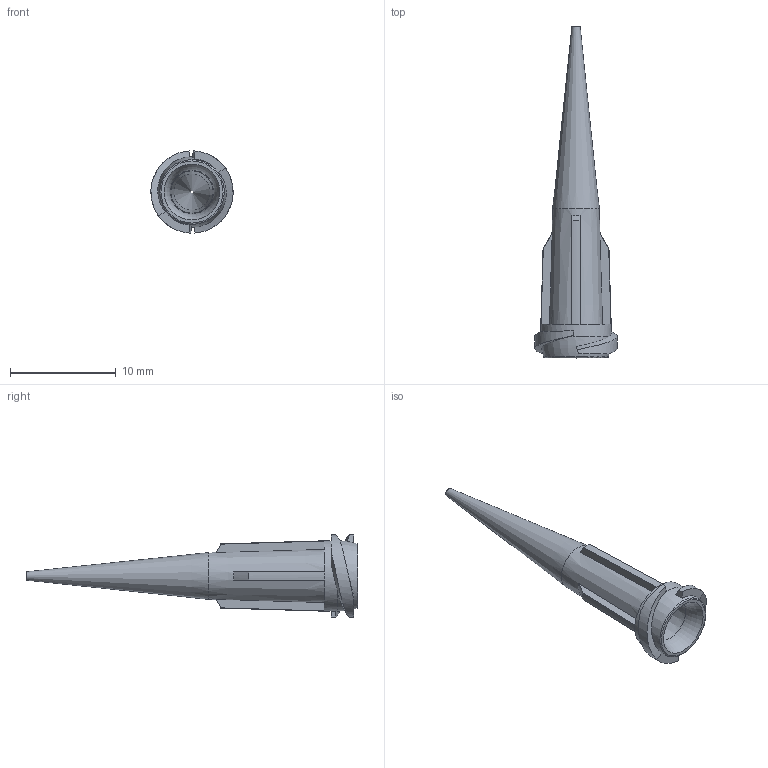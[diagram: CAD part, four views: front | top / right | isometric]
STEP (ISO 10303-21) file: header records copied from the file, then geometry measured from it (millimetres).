
FILE_DESCRIPTION (( 'STEP AP214' ), '1' );
FILE_NAME ('DAV TT 25.STEP', '2023-09-28T13:18:44', ( '' ), ( '' ), 'SwSTEP 2.0', 'SolidWorks 2022', '' );
FILE_SCHEMA (( 'AUTOMOTIVE_DESIGN' ));
Length unit declared in the file: millimetre
Products named in the file (1): DAV TT 25
Bounding box: 7.76 x 31.37 x 7.77 mm (x, y, z)
Volume: 212.1 mm3; surface area: 754.8 mm2
Topology: 1 solids, 1 shells, 48 faces, 123 edges, 77 vertices
Faces by surface type: plane 22, bspline 10, cone 9, torus 5, cylinder 2
Full cylindrical faces by diameter (mm): 6.655 x1
Entity records: 1682 total; most frequent: CARTESIAN_POINT 711, ORIENTED_EDGE 208, DIRECTION 164, EDGE_CURVE 104, VERTEX_POINT 70, AXIS2_PLACEMENT_3D 69, EDGE_LOOP 58, FACE_OUTER_BOUND 51
